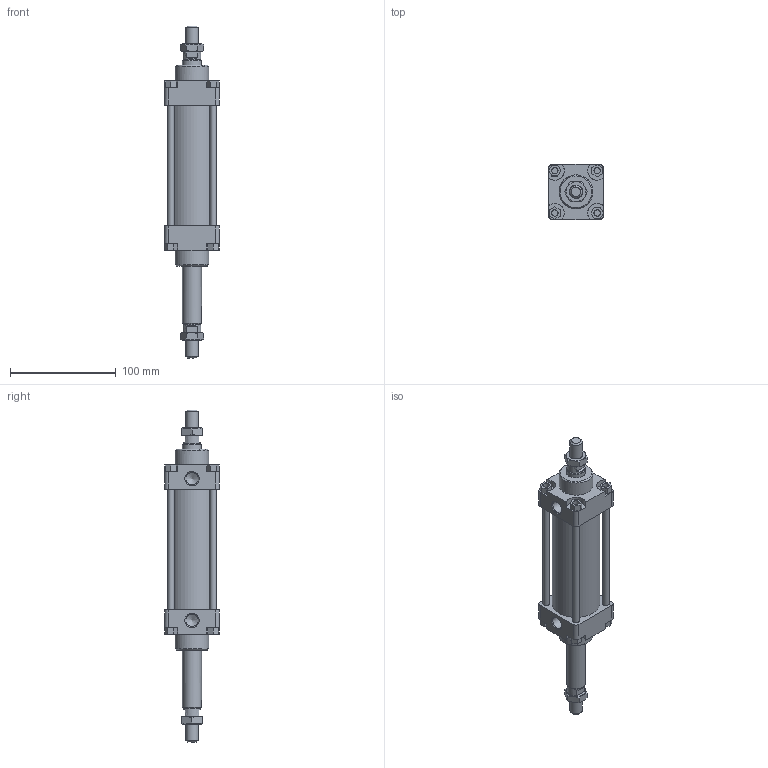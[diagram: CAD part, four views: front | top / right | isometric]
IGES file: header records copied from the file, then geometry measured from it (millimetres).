
Global section: file name: 130#_040_0050_02A; native system: Autodesk Inventor 2014; preprocessor: unknown; author: A. Manieri; date: 20161123.143715; units: millimetre
Bounding box: 52 x 52 x 314 mm (x, y, z)
Volume: 305160.1 mm3; surface area: 97726.6 mm2
Topology: 10 solids, 10 shells, 187 faces, 467 edges, 314 vertices
Faces by surface type: bspline 187
